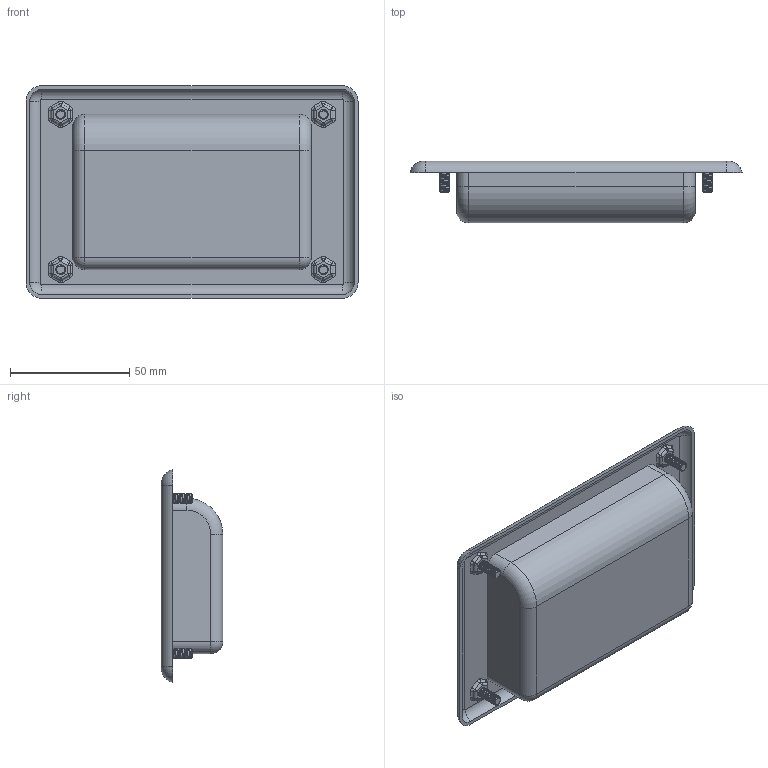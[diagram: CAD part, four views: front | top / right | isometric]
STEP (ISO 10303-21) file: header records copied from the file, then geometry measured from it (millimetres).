
FILE_DESCRIPTION (( 'STEP AP214' ), '1' );
FILE_NAME ('HP-007-1.STEP', '2019-08-21T08:34:25', ( 'TheOne' ), ( '' ), 'SwSTEP 2.0', 'SolidWorks 2014', '' );
FILE_SCHEMA (( 'AUTOMOTIVE_DESIGN' ));
Length unit declared in the file: millimetre
Products named in the file (2): HP-007-1
Bounding box: 139 x 25.8 x 89 mm (x, y, z)
Volume: 33810.5 mm3; surface area: 46407.4 mm2
Topology: 2 solids, 2 shells, 293 faces, 763 edges, 458 vertices
Faces by surface type: cylinder 160, plane 49, torus 40, sphere 28, bspline 12, cone 4
Entity records: 14082 total; most frequent: CARTESIAN_POINT 7372, ORIENTED_EDGE 1468, DIRECTION 1388, EDGE_CURVE 734, AXIS2_PLACEMENT_3D 547, VERTEX_POINT 456, EDGE_LOOP 306, LINE 294
